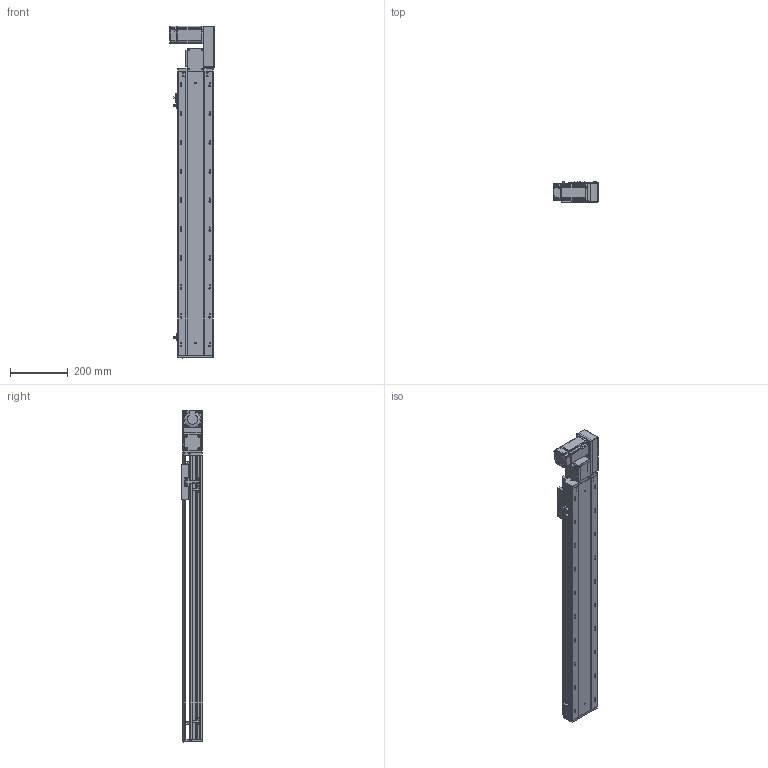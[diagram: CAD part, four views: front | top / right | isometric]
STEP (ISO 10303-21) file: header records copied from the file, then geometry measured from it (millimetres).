
FILE_DESCRIPTION (( 'STEP AP203' ), '1' );
FILE_NAME ('RY120-T-300-RK.SLDASM_750.step', '2021-03-01T03:53:11', ( '盈信电脑' ), ( '东莞市道滘镇水果街19号' ), 'SwSTEP 2.0', 'SolidWorks 2012', '' );
FILE_SCHEMA (( 'CONFIG_CONTROL_DESIGN' ));
Products named in the file (17): RY120-T萇儂假蚾啣; RY120-T主同步轮轴承压盖; RY120-T萇儂欶; RY120-T蹟翐M4; 15; RY120-T翋肮祭謫裔啣; RY120-T翋肮祭盓傅釱; RY120-T肮祭湍揤踡輸2; RY120-T肮祭湍揤踡輸1; 滅袉蝶18-10; 覜茼ん672; RY120綴裔啣; RY120外置感应片(140共用）; RY120肮祭湍臏賑輸; RY120-T-300-RK倰第菁釱_750; RY120-T-300-RK倰第奻裔啣_750; RY120-T-300-RK.SLDASM_750
Assembly tree (22 placements, depth 2):
  RY120-T-300-RK.SLDASM_750
    RY120-T-300-RK倰第菁釱_750
    RY120-T-300-RK倰第奻裔啣_750
    RY120肮祭湍臏賑輸
    RY120綴裔啣
    覜茼ん672  x3
    RY120外置感应片(140共用）
    RY120-T肮祭湍揤踡輸1
    RY120-T肮祭湍揤踡輸2
    RY120-T翋肮祭盓傅釱
    滅袉蝶18-10  x2
    RY120-T翋肮祭謫裔啣
    15
    RY120-T萇儂假蚾啣
    RY120-T蹟翐M4  x4
    RY120-T萇儂欶
    RY120-T主同步轮轴承压盖
Bounding box: 155.5 x 73 x 1147.5 mm (x, y, z)
Volume: 3063378.4 mm3; surface area: 1135201.7 mm2
Topology: 23 solids, 23 shells, 2910 faces, 7988 edges, 5142 vertices
Faces by surface type: plane 1446, cylinder 1136, cone 239, bspline 89
Entity records: 94175 total; most frequent: CARTESIAN_POINT 24784, ORIENTED_EDGE 14432, DIRECTION 13462, EDGE_CURVE 7216, VERTEX_POINT 4729, AXIS2_PLACEMENT_3D 4519, VECTOR 4424, LINE 4424
